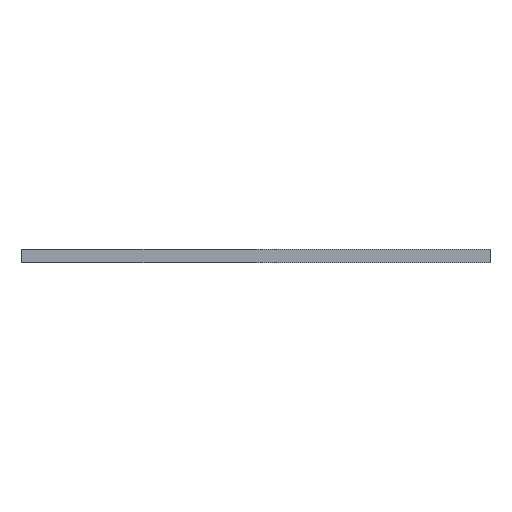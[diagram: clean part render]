
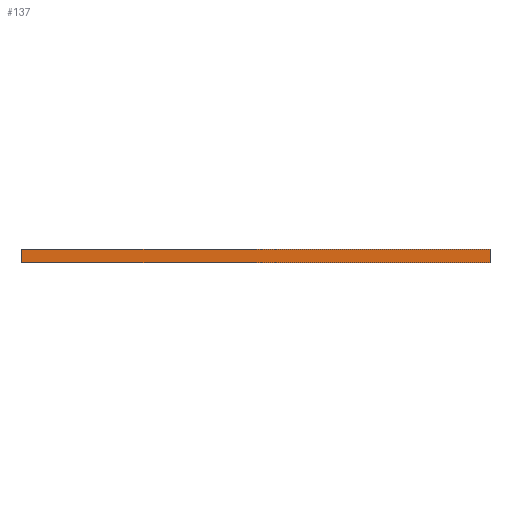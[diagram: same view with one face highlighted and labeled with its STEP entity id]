
A CAD part, front view. The second image highlights one B-rep face of the part: STEP entity #137.
In plain terms, the highlighted planar face has unit normal (0, -1, 0).
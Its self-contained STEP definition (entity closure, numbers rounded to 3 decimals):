
#21 = EDGE_CURVE('',#22,#24,#26,.T.);
#22 = VERTEX_POINT('',#23);
#23 = CARTESIAN_POINT('',(-36.,-20.,10.));
#24 = VERTEX_POINT('',#25);
#25 = CARTESIAN_POINT('',(-36.,-20.,12.));
#26 = SURFACE_CURVE('',#27,(#31,#43),.PCURVE_S1.);
#27 = LINE('',#28,#29);
#28 = CARTESIAN_POINT('',(-36.,-20.,10.));
#29 = VECTOR('',#30,1.);
#30 = DIRECTION('',(0.,0.,1.));
#31 = PCURVE('',#32,#37);
#32 = PLANE('',#33);
#33 = AXIS2_PLACEMENT_3D('',#34,#35,#36);
#34 = CARTESIAN_POINT('',(-36.,-20.,10.));
#35 = DIRECTION('',(1.,0.,0.));
#36 = DIRECTION('',(0.,0.,1.));
#37 = DEFINITIONAL_REPRESENTATION('',(#38),#42);
#38 = LINE('',#39,#40);
#39 = CARTESIAN_POINT('',(0.,0.));
#40 = VECTOR('',#41,1.);
#41 = DIRECTION('',(1.,0.));
#42 = ( GEOMETRIC_REPRESENTATION_CONTEXT(2) 
PARAMETRIC_REPRESENTATION_CONTEXT() REPRESENTATION_CONTEXT('2D SPACE',''
  ) );
#43 = PCURVE('',#44,#49);
#44 = PLANE('',#45);
#45 = AXIS2_PLACEMENT_3D('',#46,#47,#48);
#46 = CARTESIAN_POINT('',(-36.,-20.,10.));
#47 = DIRECTION('',(0.,1.,0.));
#48 = DIRECTION('',(0.,0.,1.));
#49 = DEFINITIONAL_REPRESENTATION('',(#50),#54);
#50 = LINE('',#51,#52);
#51 = CARTESIAN_POINT('',(0.,0.));
#52 = VECTOR('',#53,1.);
#53 = DIRECTION('',(1.,0.));
#54 = ( GEOMETRIC_REPRESENTATION_CONTEXT(2) 
PARAMETRIC_REPRESENTATION_CONTEXT() REPRESENTATION_CONTEXT('2D SPACE',''
  ) );
#72 = PLANE('',#73);
#73 = AXIS2_PLACEMENT_3D('',#74,#75,#76);
#74 = CARTESIAN_POINT('',(-36.,-20.,10.));
#75 = DIRECTION('',(0.,0.,1.));
#76 = DIRECTION('',(1.,0.,0.));
#126 = PLANE('',#127);
#127 = AXIS2_PLACEMENT_3D('',#128,#129,#130);
#128 = CARTESIAN_POINT('',(-36.,-20.,12.));
#129 = DIRECTION('',(0.,0.,1.));
#130 = DIRECTION('',(1.,0.,0.));
#137 = ADVANCED_FACE('',(#138),#44,.F.);
#138 = FACE_BOUND('',#139,.F.);
#139 = EDGE_LOOP('',(#140,#163,#164,#187));
#140 = ORIENTED_EDGE('',*,*,#141,.F.);
#141 = EDGE_CURVE('',#22,#142,#144,.T.);
#142 = VERTEX_POINT('',#143);
#143 = CARTESIAN_POINT('',(36.,-20.,10.));
#144 = SURFACE_CURVE('',#145,(#149,#156),.PCURVE_S1.);
#145 = LINE('',#146,#147);
#146 = CARTESIAN_POINT('',(-36.,-20.,10.));
#147 = VECTOR('',#148,1.);
#148 = DIRECTION('',(1.,0.,0.));
#149 = PCURVE('',#44,#150);
#150 = DEFINITIONAL_REPRESENTATION('',(#151),#155);
#151 = LINE('',#152,#153);
#152 = CARTESIAN_POINT('',(0.,0.));
#153 = VECTOR('',#154,1.);
#154 = DIRECTION('',(0.,1.));
#155 = ( GEOMETRIC_REPRESENTATION_CONTEXT(2) 
PARAMETRIC_REPRESENTATION_CONTEXT() REPRESENTATION_CONTEXT('2D SPACE',''
  ) );
#156 = PCURVE('',#72,#157);
#157 = DEFINITIONAL_REPRESENTATION('',(#158),#162);
#158 = LINE('',#159,#160);
#159 = CARTESIAN_POINT('',(0.,0.));
#160 = VECTOR('',#161,1.);
#161 = DIRECTION('',(1.,0.));
#162 = ( GEOMETRIC_REPRESENTATION_CONTEXT(2) 
PARAMETRIC_REPRESENTATION_CONTEXT() REPRESENTATION_CONTEXT('2D SPACE',''
  ) );
#163 = ORIENTED_EDGE('',*,*,#21,.T.);
#164 = ORIENTED_EDGE('',*,*,#165,.T.);
#165 = EDGE_CURVE('',#24,#166,#168,.T.);
#166 = VERTEX_POINT('',#167);
#167 = CARTESIAN_POINT('',(36.,-20.,12.));
#168 = SURFACE_CURVE('',#169,(#173,#180),.PCURVE_S1.);
#169 = LINE('',#170,#171);
#170 = CARTESIAN_POINT('',(-36.,-20.,12.));
#171 = VECTOR('',#172,1.);
#172 = DIRECTION('',(1.,0.,0.));
#173 = PCURVE('',#44,#174);
#174 = DEFINITIONAL_REPRESENTATION('',(#175),#179);
#175 = LINE('',#176,#177);
#176 = CARTESIAN_POINT('',(2.,0.));
#177 = VECTOR('',#178,1.);
#178 = DIRECTION('',(0.,1.));
#179 = ( GEOMETRIC_REPRESENTATION_CONTEXT(2) 
PARAMETRIC_REPRESENTATION_CONTEXT() REPRESENTATION_CONTEXT('2D SPACE',''
  ) );
#180 = PCURVE('',#126,#181);
#181 = DEFINITIONAL_REPRESENTATION('',(#182),#186);
#182 = LINE('',#183,#184);
#183 = CARTESIAN_POINT('',(0.,0.));
#184 = VECTOR('',#185,1.);
#185 = DIRECTION('',(1.,0.));
#186 = ( GEOMETRIC_REPRESENTATION_CONTEXT(2) 
PARAMETRIC_REPRESENTATION_CONTEXT() REPRESENTATION_CONTEXT('2D SPACE',''
  ) );
#187 = ORIENTED_EDGE('',*,*,#188,.F.);
#188 = EDGE_CURVE('',#142,#166,#189,.T.);
#189 = SURFACE_CURVE('',#190,(#194,#201),.PCURVE_S1.);
#190 = LINE('',#191,#192);
#191 = CARTESIAN_POINT('',(36.,-20.,10.));
#192 = VECTOR('',#193,1.);
#193 = DIRECTION('',(0.,0.,1.));
#194 = PCURVE('',#44,#195);
#195 = DEFINITIONAL_REPRESENTATION('',(#196),#200);
#196 = LINE('',#197,#198);
#197 = CARTESIAN_POINT('',(0.,72.));
#198 = VECTOR('',#199,1.);
#199 = DIRECTION('',(1.,0.));
#200 = ( GEOMETRIC_REPRESENTATION_CONTEXT(2) 
PARAMETRIC_REPRESENTATION_CONTEXT() REPRESENTATION_CONTEXT('2D SPACE',''
  ) );
#201 = PCURVE('',#202,#207);
#202 = PLANE('',#203);
#203 = AXIS2_PLACEMENT_3D('',#204,#205,#206);
#204 = CARTESIAN_POINT('',(36.,-20.,10.));
#205 = DIRECTION('',(1.,0.,0.));
#206 = DIRECTION('',(0.,0.,1.));
#207 = DEFINITIONAL_REPRESENTATION('',(#208),#212);
#208 = LINE('',#209,#210);
#209 = CARTESIAN_POINT('',(0.,0.));
#210 = VECTOR('',#211,1.);
#211 = DIRECTION('',(1.,0.));
#212 = ( GEOMETRIC_REPRESENTATION_CONTEXT(2) 
PARAMETRIC_REPRESENTATION_CONTEXT() REPRESENTATION_CONTEXT('2D SPACE',''
  ) );
